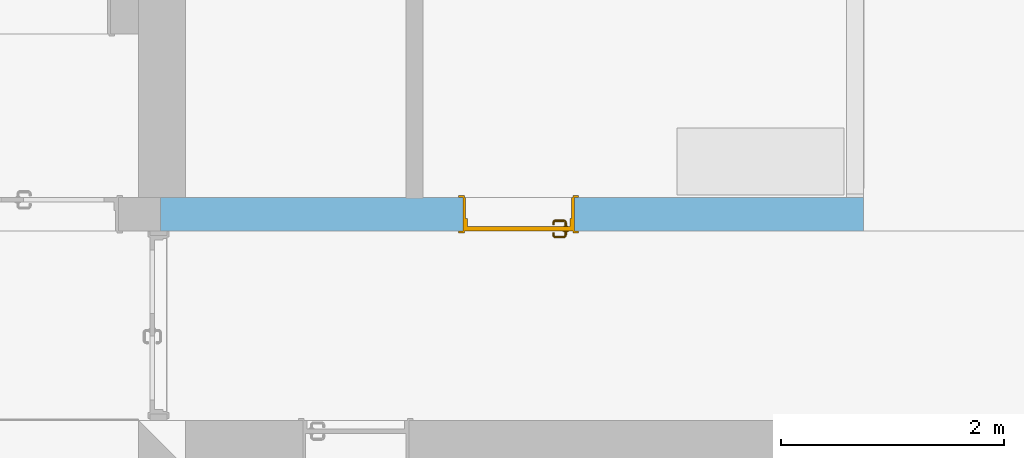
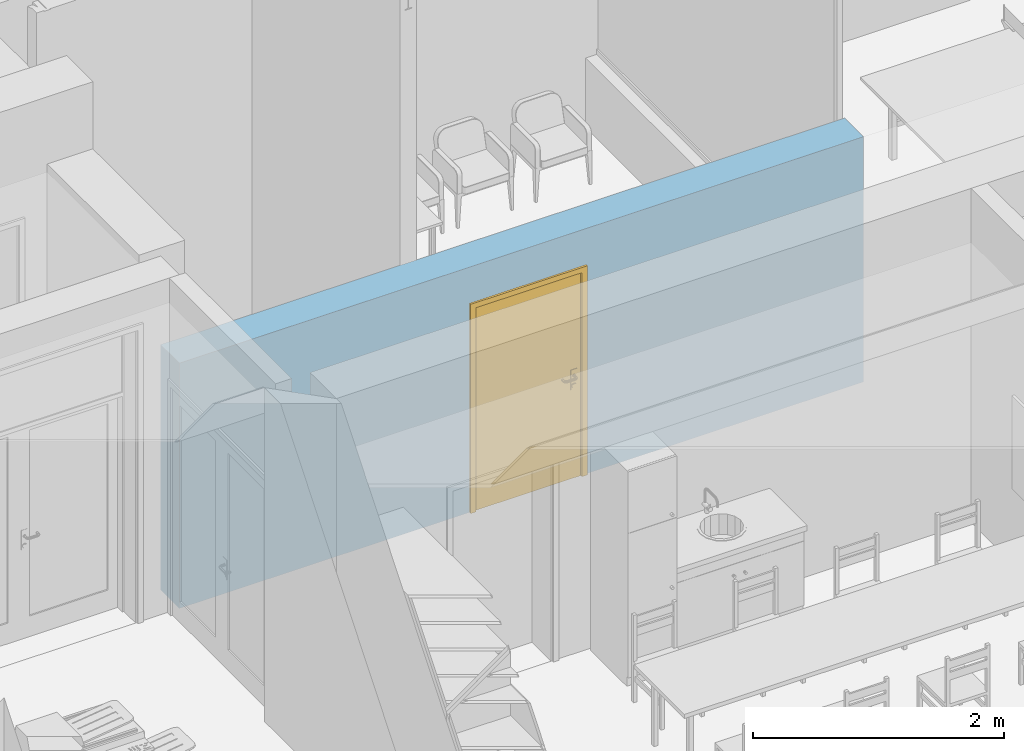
# One storey, part 61 of 194: 1 door, 1 opening, plus 1 element that does not belong to this part.
"""IFC2X3 building model written with IfcOpenShell, lengths in millimetres."""

from ifc_helpers import new_model, entity, si_unit, converted_unit, derived_unit, money_unit, direction, frame, origin_with_axes, origin_2d_with_axis, place, context, subcontext, project, spatial, polyline, rectangle, outline, extrude, open_shell, faceted_brep, surface_model, material, layer, layer_set, layer_usage, type_object, element, fill, save


model = new_model("IFC2X3")

# Units and contexts
model_context = context("Model", 3, precision=1e-05, world=origin_with_axes(), true_north=direction((0.0, 1.0)))
body_context = subcontext(model_context, "Body", "Model", "MODEL_VIEW")
ifc_project = project(units=[si_unit("LENGTHUNIT", "METRE", prefix="MILLI"), si_unit("AREAUNIT", "SQUARE_METRE"), si_unit("VOLUMEUNIT", "CUBIC_METRE"), converted_unit("PLANEANGLEUNIT", "DEGREE", entity("IfcPlaneAngleMeasure", 0.0174532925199), si_unit("PLANEANGLEUNIT", "RADIAN"), dimensions=[0, 0, 0, 0, 0, 0, 0]), si_unit("SOLIDANGLEUNIT", "STERADIAN"), money_unit("EUR"), converted_unit("TIMEUNIT", "Year", entity("IfcTimeMeasure", 31556926.0), si_unit("TIMEUNIT", "SECOND"), dimensions=[0, 0, 1, 0, 0, 0, 0]), si_unit("MASSUNIT", "GRAM", prefix="KILO"), si_unit("THERMODYNAMICTEMPERATUREUNIT", "DEGREE_CELSIUS"), si_unit("LUMINOUSINTENSITYUNIT", "LUMEN"), si_unit("ENERGYUNIT", "JOULE", prefix="MEGA"), derived_unit("THERMALCONDUCTANCEUNIT", [(si_unit("POWERUNIT", "WATT"), 1), (si_unit("LENGTHUNIT", "METRE"), -1), (si_unit("THERMODYNAMICTEMPERATUREUNIT", "KELVIN"), -1)]), derived_unit("SPECIFICHEATCAPACITYUNIT", [(si_unit("ENERGYUNIT", "JOULE"), 1), (si_unit("MASSUNIT", "GRAM", prefix="KILO"), -1), (si_unit("THERMODYNAMICTEMPERATUREUNIT", "KELVIN"), -1)]), derived_unit("MASSDENSITYUNIT", [(si_unit("MASSUNIT", "GRAM", prefix="KILO"), 1), (si_unit("VOLUMEUNIT", "CUBIC_METRE"), -1)])], contexts=[model_context])

# Site, building, storey
site_placement = place(None, origin_with_axes())
site = spatial("IfcSite", under=ifc_project, at=site_placement, Name="Site", CompositionType="ELEMENT")
building_placement = place(site_placement, origin_with_axes())
building = spatial("IfcBuilding", under=site, at=building_placement, Name="Building", CompositionType="ELEMENT")
storey_placement = place(building_placement, frame((0.0, 0.0, 3000.0), z_axis=(0.0, 0.0, 1.0), x_axis=(1.0, 0.0, 0.0)))
storey = spatial("IfcBuildingStorey", under=building, at=storey_placement, Name="2 KORRUS", CompositionType="ELEMENT", Elevation=3000.0)

# Wall, opening, door
ifc_material = material(Name="Kivi -Ol.Olev Konstruktsioon")
ifc_layer = layer(ifc_material, 300.0, ventilated="UNKNOWN")
ifc_layer_set = layer_set([ifc_layer], Name="ol.olev ss 300")
ifc_layer_usage = layer_usage(ifc_layer_set, "AXIS2", "NEGATIVE", 300.0)
wall_type = type_object("IfcWallType", Name="SW - 022", PredefinedType="NOTDEFINED")
wall_placement = place(storey_placement, frame((63935.1951905, 42700.4940854, 0.0), z_axis=(0.0, 0.0, 1.0), x_axis=(1.0, 0.0, 0.0)))
wall = element("IfcWallStandardCase", 1, at=wall_placement, inside=storey, type_object=wall_type, material=ifc_layer_usage, Name="ol.olev ss 300", context=body_context, shape_type="SweptSolid", body=[
    extrude(outline(polyline([(0.0, 0.0), (6299.53291605, 0.0), (6299.53291605, 300.0), (0.0, 300.0), (0.0, 0.0)])), origin_with_axes(), (0.0, 0.0, 1.0), 2387.45029227),
])
opening_placement = place(wall_placement, frame((3209.10835658, 0.0, 0.0), z_axis=(0.0, 0.0, 1.0), x_axis=(1.0, 0.0, 0.0)))
opening = element("IfcOpeningElement", 2, at=opening_placement, cuts=wall, Name="Siseuks * Door 22", context=body_context, shape_type="SweptSolid", body=[
    extrude(rectangle(XDim=1000.0, YDim=2000.0, at=origin_2d_with_axis()), frame((0.0, 300.0, 1000.0), z_axis=(0.0, -1.0, 0.0), x_axis=(-1.0, 0.0, 0.0)), (0.0, 0.0, 1.0), 900.0),
    extrude(rectangle(XDim=1074.0, YDim=2037.0, at=origin_2d_with_axis()), frame((0.0, 300.0, 1018.5), z_axis=(0.0, -1.0, 0.0), x_axis=(-1.0, 0.0, 0.0)), (0.0, 0.0, -1.0), 300.0),
    extrude(rectangle(XDim=1074.0, YDim=2037.0, at=origin_2d_with_axis()), frame((0.0, 0.0, 1018.5), z_axis=(0.0, 1.0, 0.0), x_axis=(-1.0, 0.0, 0.0)), (0.0, 0.0, -1.0), 300.0),
])
door_style = type_object("IfcDoorStyle", Name="SU-B229   1\xa0000×2\xa0000", ConstructionType="NOTDEFINED", OperationType="SINGLE_SWING_RIGHT", ParameterTakesPrecedence=False, Sizeable=False)
door_placement = place(opening_placement, frame((500.0, 0.0, 0.0), z_axis=(0.0, 0.0, 1.0), x_axis=(-1.0, 0.0, 0.0)))
door = element("IfcDoor", 3, at=door_placement, inside=storey, type_object=door_style, Name="Siseuks * Door 22", OverallHeight=2000.0, OverallWidth=1000.0, context=body_context, shape_type="SurfaceModel", body=[
    faceted_brep([(0.0, -115.0, 0.0), (25.0, -115.0, 0.0), (25.0, -300.0, 0.0), (0.0, -300.0, 0.0), (0.0, -115.0, 2000.0), (25.0, -115.0, 1975.0), (25.0, -300.0, 1975.0), (0.0, -300.0, 2000.0)], [[[0, 1, 2, 3]], [[0, 4, 5, 1]], [[1, 5, 6, 2]], [[3, 2, 6, 7]], [[4, 0, 3, 7]], [[5, 4, 7, 6]]]),
    faceted_brep([(1000.0, -115.0, 2000.0), (975.0, -115.0, 1975.0), (975.0, -300.0, 1975.0), (1000.0, -300.0, 2000.0), (1000.0, -115.0, 0.0), (975.0, -115.0, 0.0), (975.0, -300.0, 0.0), (1000.0, -300.0, 0.0)], [[[0, 1, 2, 3]], [[0, 4, 5, 1]], [[1, 5, 6, 2]], [[3, 2, 6, 7]], [[4, 0, 3, 7]], [[5, 4, 7, 6]]]),
    faceted_brep([(25.0, -115.0, 1975.0), (975.0, -115.0, 1975.0), (975.0, -300.0, 1975.0), (25.0, -300.0, 1975.0), (0.0, -115.0, 2000.0), (1000.0, -115.0, 2000.0), (1000.0, -300.0, 2000.0), (0.0, -300.0, 2000.0)], [[[0, 1, 2, 3]], [[0, 4, 5, 1]], [[1, 5, 6, 2]], [[3, 2, 6, 7]], [[4, 0, 3, 7]], [[5, 4, 7, 6]]]),
    faceted_brep([(-37.0, -319.0, 0.0), (-37.0, -300.0, 0.0), (13.0, -300.0, 0.0), (13.0, -319.0, 0.0), (-37.0, -319.0, 2037.0), (-37.0, -300.0, 2037.0), (13.0, -300.0, 1987.0), (13.0, -319.0, 1987.0)], [[[0, 1, 2, 3]], [[4, 5, 1, 0]], [[1, 5, 6, 2]], [[3, 2, 6, 7]], [[0, 3, 7, 4]], [[7, 6, 5, 4]]]),
    faceted_brep([(1037.0, -319.0, 2037.0), (1037.0, -300.0, 2037.0), (987.0, -300.0, 1987.0), (987.0, -319.0, 1987.0), (1037.0, -319.0, 0.0), (1037.0, -300.0, 0.0), (987.0, -300.0, 0.0), (987.0, -319.0, 0.0)], [[[0, 1, 2, 3]], [[4, 5, 1, 0]], [[1, 5, 6, 2]], [[3, 2, 6, 7]], [[0, 3, 7, 4]], [[7, 6, 5, 4]]]),
    faceted_brep([(-37.0, -319.0, 2037.0), (-37.0, -300.0, 2037.0), (13.0, -300.0, 1987.0), (13.0, -319.0, 1987.0), (1037.0, -319.0, 2037.0), (1037.0, -300.0, 2037.0), (987.0, -300.0, 1987.0), (987.0, -319.0, 1987.0)], [[[0, 1, 2, 3]], [[4, 5, 1, 0]], [[1, 5, 6, 2]], [[3, 2, 6, 7]], [[0, 3, 7, 4]], [[7, 6, 5, 4]]]),
    faceted_brep([(-37.0, 19.0000000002, 0.0), (13.0, 19.0000000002, 0.0), (13.0, 0.0, 0.0), (-37.0, 0.0, 0.0), (-37.0, 19.0000000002, 2037.0), (13.0, 19.0000000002, 1987.0), (13.0, 0.0, 1987.0), (-37.0, 0.0, 2037.0)], [[[0, 1, 2, 3]], [[0, 4, 5, 1]], [[1, 5, 6, 2]], [[3, 2, 6, 7]], [[4, 0, 3, 7]], [[5, 4, 7, 6]]]),
    faceted_brep([(1037.0, 19.0000000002, 2037.0), (987.0, 19.0000000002, 1987.0), (987.0, 0.0, 1987.0), (1037.0, 0.0, 2037.0), (1037.0, 19.0000000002, 0.0), (987.0, 19.0000000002, 0.0), (987.0, 0.0, 0.0), (1037.0, 0.0, 0.0)], [[[0, 1, 2, 3]], [[0, 4, 5, 1]], [[1, 5, 6, 2]], [[3, 2, 6, 7]], [[4, 0, 3, 7]], [[5, 4, 7, 6]]]),
    faceted_brep([(-37.0, 19.0000000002, 2037.0), (13.0, 19.0000000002, 1987.0), (13.0, 0.0, 1987.0), (-37.0, 0.0, 2037.0), (1037.0, 19.0000000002, 2037.0), (987.0, 19.0000000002, 1987.0), (987.0, 0.0, 1987.0), (1037.0, 0.0, 2037.0)], [[[0, 1, 2, 3]], [[0, 4, 5, 1]], [[1, 5, 6, 2]], [[3, 2, 6, 7]], [[4, 0, 3, 7]], [[5, 4, 7, 6]]]),
    faceted_brep([(40.0, -40.0, 0.0), (40.0, -40.0, 1960.0), (40.0, -115.0, 1960.0), (40.0, -115.0, 0.0), (28.0, -40.0, 1960.0), (28.0, -40.0, 0.0), (28.0, 0.0, 1960.0), (0.0, 0.0, 1960.0), (0.0, -115.0, 1960.0), (0.0, -115.0, 0.0), (0.0, 0.0, 0.0), (28.0, 0.0, 0.0)], [[[0, 1, 2, 3]], [[4, 1, 0, 5]], [[4, 6, 7, 8, 2, 1]], [[3, 2, 8, 9]], [[5, 0, 3, 9, 10, 11]], [[6, 4, 5, 11]], [[6, 11, 10, 7]], [[10, 9, 8, 7]]]),
    faceted_brep([(972.0, -40.0, 1960.0), (960.0, -40.0, 1960.0), (960.0, -115.0, 1960.0), (1000.0, -115.0, 1960.0), (1000.0, 0.0, 1960.0), (972.0, 0.0, 1960.0), (972.0, -40.0, 0.0), (960.0, -40.0, 0.0), (960.0, -115.0, 0.0), (1000.0, -115.0, 0.0), (1000.0, 0.0, 0.0), (972.0, 0.0, 0.0)], [[[0, 1, 2, 3, 4, 5]], [[1, 0, 6, 7]], [[1, 7, 8, 2]], [[3, 2, 8, 9]], [[4, 3, 9, 10]], [[11, 5, 4, 10]], [[0, 5, 11, 6]], [[6, 11, 10, 9, 8, 7]]]),
    faceted_brep([(28.0, 0.0, 1972.0), (28.0, 0.0, 1960.0), (0.0, 0.0, 1960.0), (0.0, 0.0, 2000.0), (1000.0, 0.0, 2000.0), (1000.0, 0.0, 1960.0), (972.0, 0.0, 1960.0), (972.0, 0.0, 1972.0), (28.0, -40.0, 1972.0), (28.0, -40.0, 1960.0), (40.0, -40.0, 1960.0), (40.0, -115.0, 1960.0), (0.0, -115.0, 1960.0), (0.0, -115.0, 2000.0), (1000.0, -115.0, 2000.0), (1000.0, -115.0, 1960.0), (972.0, -40.0, 1960.0), (960.0, -115.0, 1960.0), (960.0, -40.0, 1960.0), (972.0, -40.0, 1972.0)], [[[0, 1, 2, 3, 4, 5, 6, 7]], [[1, 0, 8, 9]], [[9, 10, 11, 12, 2, 1]], [[2, 12, 13, 3]], [[3, 13, 14, 4]], [[4, 14, 15, 5]], [[16, 6, 5, 15, 17, 18]], [[7, 6, 16, 19]], [[0, 7, 19, 8]], [[16, 18, 10, 9, 8, 19]], [[10, 18, 17, 11]], [[17, 15, 14, 13, 12, 11]]]),
    faceted_brep([(49.5, -40.0, 1060.0), (49.5, -42.9999999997, 1060.0), (106.5, -42.9999999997, 1060.0), (106.5, -40.0, 1060.0), (49.5, -40.0, 870.0), (49.5, -42.9999999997, 870.0), (106.5, -42.9999999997, 870.0), (106.5, -40.0, 870.0)], [[[0, 1, 2, 3]], [[4, 5, 1, 0]], [[1, 5, 6, 2]], [[3, 2, 6, 7]], [[0, 3, 7, 4]], [[7, 6, 5, 4]]]),
    surface_model("IfcShellBasedSurfaceModel", [(88.0, -52.9999999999, 1000.0), (88.0, -72.0150859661, 1000.0), (85.0710678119, -72.3035606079, 992.928932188), (85.0710678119, -52.9999999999, 992.928932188), (85.0710678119, -52.9999999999, 1007.07106781), (85.0710678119, -72.3035606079, 1007.07106781), (88.9422033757, -76.7518622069, 1000.0), (86.1832095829, -77.8946748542, 992.928932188), (78.0, -73.0000000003, 990.0), (78.0, -52.9999999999, 990.0), (78.0, -52.9999999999, 1010.0), (78.0, -73.0000000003, 1010.0), (86.1832095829, -77.8946748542, 1007.07106781), (91.0674625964, -79.9325374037, 1000.0), (88.9558201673, -82.0441798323, 992.928932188), (79.5224093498, -80.6536686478, 990.0), (70.9289321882, -73.6964393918, 992.928932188), (70.9289321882, -52.9999999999, 992.928932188), (70.9289321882, -52.9999999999, 1007.07106781), (70.9289321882, -73.6964393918, 1007.07106781), (79.5224093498, -80.6536686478, 1010.0), (88.9558201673, -82.0441798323, 1007.07106781), (94.248137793, -82.0577966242, 1000.0), (93.1053251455, -84.8167904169, 992.928932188), (83.8578643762, -87.1421356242, 990.0), (72.8616091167, -83.4126624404, 992.928932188), (68.0, -73.9849140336, 1000.0), (68.0, -52.9999999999, 1000.0), (72.8616091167, -83.4126624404, 1007.07106781), (83.8578643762, -87.1421356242, 1010.0), (93.1053251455, -84.8167904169, 1007.07106781), (98.9849140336, -82.9999999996, 1000.0), (98.696439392, -85.9289321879, 992.928932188), (90.3463313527, -91.4775906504, 990.0), (78.7599085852, -92.2400914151, 992.928932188), (70.1026153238, -84.5554750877, 1000.0), (78.7599085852, -92.2400914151, 1007.07106781), (90.3463313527, -91.4775906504, 1010.0), (98.696439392, -85.9289321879, 1007.07106781), (167.015085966, -82.9999999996, 1000.0), (167.303560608, -85.9289321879, 992.928932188), (98.0, -92.9999999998, 990.0), (87.5873375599, -98.1383908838, 992.928932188), (76.6482661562, -94.3517338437, 1000.0), (87.5873375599, -98.1383908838, 1007.07106781), (98.0, -92.9999999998, 1010.0), (167.303560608, -85.9289321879, 1007.07106781), (171.751862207, -82.0577966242, 1000.0), (172.894674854, -84.8167904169, 992.928932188), (168.0, -92.9999999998, 990.0), (97.303560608, -100.071067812, 992.928932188), (86.4445249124, -100.897384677, 1000.0), (97.303560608, -100.071067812, 1007.07106781), (168.0, -92.9999999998, 1010.0), (172.894674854, -84.8167904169, 1007.07106781), (174.932537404, -79.9325374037, 1000.0), (177.044179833, -82.0441798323, 992.928932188), (175.653668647, -91.4775906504, 990.0), (168.696439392, -100.071067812, 992.928932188), (97.0150859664, -103.0, 1000.0), (168.696439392, -100.071067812, 1007.07106781), (175.653668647, -91.4775906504, 1010.0), (177.044179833, -82.0441798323, 1007.07106781), (177.057796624, -76.7518622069, 1000.0), (179.816790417, -77.8946748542, 992.928932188), (182.142135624, -87.1421356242, 990.0), (178.41266244, -98.1383908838, 992.928932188), (168.984914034, -103.0, 1000.0), (178.41266244, -98.1383908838, 1007.07106781), (182.142135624, -87.1421356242, 1010.0), (179.816790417, -77.8946748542, 1007.07106781), (178.0, -72.0150859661, 1000.0), (180.928932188, -72.3035606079, 992.928932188), (186.47759065, -80.6536686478, 990.0), (187.240091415, -92.2400914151, 992.928932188), (179.555475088, -100.897384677, 1000.0), (187.240091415, -92.2400914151, 1007.07106781), (186.47759065, -80.6536686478, 1010.0), (180.928932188, -72.3035606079, 1007.07106781), (178.0, -52.9999999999, 1000.0), (180.928932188, -52.9999999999, 992.928932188), (188.0, -73.0000000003, 990.0), (193.138390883, -83.4126624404, 992.928932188), (189.351733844, -94.3517338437, 1000.0), (193.138390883, -83.4126624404, 1007.07106781), (188.0, -73.0000000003, 1010.0), (180.928932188, -52.9999999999, 1007.07106781), (188.0, -52.9999999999, 1010.0), (195.071067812, -52.9999999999, 1007.07106781), (198.0, -52.9999999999, 1000.0), (195.071067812, -52.9999999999, 992.928932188), (188.0, -52.9999999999, 990.0), (195.071067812, -73.6964393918, 992.928932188), (195.897384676, -84.5554750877, 1000.0), (195.071067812, -73.6964393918, 1007.07106781), (198.0, -73.9849140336, 1000.0)], [open_shell([[[0, 1, 2, 3]], [[4, 5, 1, 0]], [[1, 6, 7, 2]], [[3, 2, 8, 9]], [[10, 11, 5, 4]], [[5, 12, 6, 1]], [[6, 13, 14, 7]], [[2, 7, 15, 8]], [[9, 8, 16, 17]], [[18, 19, 11, 10]], [[11, 20, 12, 5]], [[12, 21, 13, 6]], [[13, 22, 23, 14]], [[7, 14, 24, 15]], [[8, 15, 25, 16]], [[17, 16, 26, 27]], [[27, 26, 19, 18]], [[19, 28, 20, 11]], [[20, 29, 21, 12]], [[21, 30, 22, 13]], [[22, 31, 32, 23]], [[14, 23, 33, 24]], [[15, 24, 34, 25]], [[16, 25, 35, 26]], [[26, 35, 28, 19]], [[28, 36, 29, 20]], [[29, 37, 30, 21]], [[30, 38, 31, 22]], [[31, 39, 40, 32]], [[23, 32, 41, 33]], [[24, 33, 42, 34]], [[25, 34, 43, 35]], [[35, 43, 36, 28]], [[36, 44, 37, 29]], [[37, 45, 38, 30]], [[38, 46, 39, 31]], [[39, 47, 48, 40]], [[32, 40, 49, 41]], [[33, 41, 50, 42]], [[34, 42, 51, 43]], [[43, 51, 44, 36]], [[44, 52, 45, 37]], [[45, 53, 46, 38]], [[46, 54, 47, 39]], [[47, 55, 56, 48]], [[40, 48, 57, 49]], [[41, 49, 58, 50]], [[42, 50, 59, 51]], [[51, 59, 52, 44]], [[52, 60, 53, 45]], [[53, 61, 54, 46]], [[54, 62, 55, 47]], [[55, 63, 64, 56]], [[48, 56, 65, 57]], [[49, 57, 66, 58]], [[50, 58, 67, 59]], [[59, 67, 60, 52]], [[60, 68, 61, 53]], [[61, 69, 62, 54]], [[62, 70, 63, 55]], [[63, 71, 72, 64]], [[56, 64, 73, 65]], [[57, 65, 74, 66]], [[58, 66, 75, 67]], [[67, 75, 68, 60]], [[68, 76, 69, 61]], [[69, 77, 70, 62]], [[70, 78, 71, 63]], [[71, 79, 80, 72]], [[64, 72, 81, 73]], [[65, 73, 82, 74]], [[66, 74, 83, 75]], [[75, 83, 76, 68]], [[76, 84, 77, 69]], [[77, 85, 78, 70]], [[78, 86, 79, 71]], [[79, 86, 87, 88, 89, 90, 91, 80]], [[72, 80, 91, 81]], [[73, 81, 92, 82]], [[74, 82, 93, 83]], [[83, 93, 84, 76]], [[84, 94, 85, 77]], [[85, 87, 86, 78]], [[94, 88, 87, 85]], [[95, 89, 88, 94]], [[92, 90, 89, 95]], [[81, 91, 90, 92]], [[82, 92, 95, 93]], [[93, 95, 94, 84]]])]),
    faceted_brep([(88.3923048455, -52.9999999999, 994.0), (89.2583302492, -42.9999999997, 993.5), (91.0, -42.9999999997, 1000.0), (90.0, -52.9999999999, 1000.0), (83.9999999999, -52.9999999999, 989.607695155), (84.5, -42.9999999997, 988.741669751), (78.0, -42.9999999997, 987.0), (71.5, -42.9999999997, 988.741669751), (66.7416697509, -42.9999999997, 993.5), (65.0000000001, -42.9999999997, 1000.0), (66.7416697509, -42.9999999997, 1006.5), (71.5, -42.9999999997, 1011.25833025), (78.0, -42.9999999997, 1013.0), (84.5, -42.9999999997, 1011.25833025), (89.2583302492, -42.9999999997, 1006.5), (88.3923048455, -52.9999999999, 1006.0), (83.9999999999, -52.9999999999, 1010.39230485), (78.0, -52.9999999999, 1012.0), (72.0, -52.9999999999, 1010.39230485), (67.6076951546, -52.9999999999, 1006.0), (66.0, -52.9999999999, 1000.0), (67.6076951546, -52.9999999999, 994.0), (72.0, -52.9999999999, 989.607695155), (78.0, -52.9999999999, 988.0)], [[[0, 1, 2, 3]], [[4, 5, 1, 0]], [[2, 1, 5, 6, 7, 8, 9, 10, 11, 12, 13, 14]], [[3, 2, 14, 15]], [[3, 15, 16, 17, 18, 19, 20, 21, 22, 23, 4, 0]], [[23, 6, 5, 4]], [[22, 7, 6, 23]], [[21, 8, 7, 22]], [[20, 9, 8, 21]], [[19, 10, 9, 20]], [[18, 11, 10, 19]], [[17, 12, 11, 18]], [[16, 13, 12, 17]], [[15, 14, 13, 16]]]),
    faceted_brep([(95.3205080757, -46.9999999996, 895.0), (97.0525588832, -42.9999999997, 894.0), (100.0, -42.9999999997, 905.0), (98.0, -46.9999999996, 905.0), (88.0, -46.9999999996, 887.679491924), (89.0000000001, -42.9999999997, 885.947441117), (78.0, -42.9999999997, 883.0), (67.0, -42.9999999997, 885.947441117), (58.9474411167, -42.9999999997, 894.0), (56.0, -42.9999999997, 905.0), (58.9474411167, -42.9999999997, 916.0), (67.0, -42.9999999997, 924.052558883), (78.0, -42.9999999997, 927.0), (89.0000000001, -42.9999999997, 924.052558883), (97.0525588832, -42.9999999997, 916.0), (95.3205080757, -46.9999999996, 915.0), (88.0, -46.9999999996, 922.320508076), (78.0, -46.9999999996, 925.0), (68.0, -46.9999999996, 922.320508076), (60.6794919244, -46.9999999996, 915.0), (58.0, -46.9999999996, 905.0), (60.6794919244, -46.9999999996, 895.0), (68.0, -46.9999999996, 887.679491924), (78.0, -46.9999999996, 885.0)], [[[0, 1, 2, 3]], [[4, 5, 1, 0]], [[2, 1, 5, 6, 7, 8, 9, 10, 11, 12, 13, 14]], [[3, 2, 14, 15]], [[3, 15, 16, 17, 18, 19, 20, 21, 22, 23, 4, 0]], [[23, 6, 5, 4]], [[22, 7, 6, 23]], [[21, 8, 7, 22]], [[20, 9, 8, 21]], [[19, 10, 9, 20]], [[18, 11, 10, 19]], [[17, 12, 11, 18]], [[16, 13, 12, 17]], [[15, 14, 13, 16]]]),
    faceted_brep([(82.9497474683, -49.0, 909.050252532), (83.6568542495, -46.9999999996, 908.343145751), (86.0, -46.9999999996, 914.0), (85.0, -49.0, 914.0), (78.0, -49.0, 907.0), (78.0, -46.9999999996, 906.0), (72.3431457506, -46.9999999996, 908.343145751), (70.0000000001, -46.9999999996, 914.0), (72.3431457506, -46.9999999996, 919.656854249), (78.0, -46.9999999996, 922.0), (83.6568542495, -46.9999999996, 919.656854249), (82.9497474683, -49.0, 918.949747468), (78.0, -49.0, 921.0), (73.0502525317, -49.0, 918.949747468), (71.0, -49.0, 914.0), (73.0502525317, -49.0, 909.050252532)], [[[0, 1, 2, 3]], [[4, 5, 1, 0]], [[2, 1, 5, 6, 7, 8, 9, 10]], [[3, 2, 10, 11]], [[3, 11, 12, 13, 14, 15, 4, 0]], [[15, 6, 5, 4]], [[14, 7, 6, 15]], [[13, 8, 7, 14]], [[12, 9, 8, 13]], [[11, 10, 9, 12]]]),
    faceted_brep([(49.5, 0.0, 1060.0), (106.5, 0.0, 1060.0), (106.5, 2.9999999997, 1060.0), (49.5, 2.9999999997, 1060.0), (49.5, 0.0, 870.0), (106.5, 0.0, 870.0), (106.5, 2.9999999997, 870.0), (49.5, 2.9999999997, 870.0)], [[[0, 1, 2, 3]], [[0, 4, 5, 1]], [[1, 5, 6, 2]], [[3, 2, 6, 7]], [[4, 0, 3, 7]], [[5, 4, 7, 6]]]),
    surface_model("IfcShellBasedSurfaceModel", [(88.0, 12.9999999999, 1000.0), (85.0710678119, 12.9999999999, 992.928932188), (85.0710678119, 32.3035606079, 992.928932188), (88.0, 32.0150859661, 1000.0), (78.0, 12.9999999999, 990.0), (78.0, 33.0000000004, 990.0), (86.1832095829, 37.8946748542, 992.928932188), (88.9422033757, 36.751862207, 1000.0), (85.0710678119, 12.9999999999, 1007.07106781), (85.0710678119, 32.3035606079, 1007.07106781), (70.9289321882, 12.9999999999, 992.928932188), (70.9289321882, 33.6964393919, 992.928932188), (79.5224093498, 40.6536686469, 990.0), (88.9558201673, 42.0441798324, 992.928932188), (91.0674625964, 39.9325374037, 1000.0), (86.1832095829, 37.8946748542, 1007.07106781), (78.0, 12.9999999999, 1010.0), (78.0, 33.0000000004, 1010.0), (68.0, 12.9999999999, 1000.0), (68.0, 33.9849140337, 1000.0), (72.8616091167, 43.4126624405, 992.928932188), (83.8578643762, 47.1421356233, 990.0), (93.1053251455, 44.8167904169, 992.928932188), (94.248137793, 42.0577966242, 1000.0), (88.9558201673, 42.0441798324, 1007.07106781), (79.5224093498, 40.6536686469, 1010.0), (70.9289321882, 12.9999999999, 1007.07106781), (70.9289321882, 33.6964393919, 1007.07106781), (70.1026153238, 44.5554750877, 1000.0), (78.7599085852, 52.2400914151, 992.928932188), (90.3463313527, 51.4775906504, 990.0), (98.696439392, 45.928932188, 992.928932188), (98.9849140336, 42.9999999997, 1000.0), (93.1053251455, 44.8167904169, 1007.07106781), (83.8578643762, 47.1421356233, 1010.0), (72.8616091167, 43.4126624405, 1007.07106781), (76.6482661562, 54.3517338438, 1000.0), (87.5873375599, 58.138390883, 992.928932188), (98.0, 52.9999999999, 990.0), (167.303560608, 45.928932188, 992.928932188), (167.015085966, 42.9999999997, 1000.0), (98.696439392, 45.928932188, 1007.07106781), (90.3463313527, 51.4775906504, 1010.0), (78.7599085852, 52.2400914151, 1007.07106781), (86.4445249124, 60.8973846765, 1000.0), (97.303560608, 60.0710678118, 992.928932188), (168.0, 52.9999999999, 990.0), (172.894674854, 44.8167904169, 992.928932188), (171.751862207, 42.0577966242, 1000.0), (167.303560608, 45.928932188, 1007.07106781), (98.0, 52.9999999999, 1010.0), (87.5873375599, 58.138390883, 1007.07106781), (97.0150859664, 63.0000000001, 1000.0), (168.696439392, 60.0710678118, 992.928932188), (175.653668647, 51.4775906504, 990.0), (177.044179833, 42.0441798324, 992.928932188), (174.932537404, 39.9325374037, 1000.0), (172.894674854, 44.8167904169, 1007.07106781), (168.0, 52.9999999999, 1010.0), (97.303560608, 60.0710678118, 1007.07106781), (168.984914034, 63.0000000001, 1000.0), (178.41266244, 58.138390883, 992.928932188), (182.142135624, 47.1421356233, 990.0), (179.816790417, 37.8946748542, 992.928932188), (177.057796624, 36.751862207, 1000.0), (177.044179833, 42.0441798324, 1007.07106781), (175.653668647, 51.4775906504, 1010.0), (168.696439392, 60.0710678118, 1007.07106781), (179.555475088, 60.8973846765, 1000.0), (187.240091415, 52.2400914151, 992.928932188), (186.47759065, 40.6536686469, 990.0), (180.928932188, 32.3035606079, 992.928932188), (178.0, 32.0150859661, 1000.0), (179.816790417, 37.8946748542, 1007.07106781), (182.142135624, 47.1421356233, 1010.0), (178.41266244, 58.138390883, 1007.07106781), (189.351733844, 54.3517338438, 1000.0), (193.138390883, 43.4126624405, 992.928932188), (188.0, 33.0000000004, 990.0), (180.928932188, 12.9999999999, 992.928932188), (178.0, 12.9999999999, 1000.0), (180.928932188, 32.3035606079, 1007.07106781), (186.47759065, 40.6536686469, 1010.0), (187.240091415, 52.2400914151, 1007.07106781), (195.897384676, 44.5554750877, 1000.0), (195.071067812, 33.6964393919, 992.928932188), (188.0, 12.9999999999, 990.0), (195.071067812, 12.9999999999, 992.928932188), (198.0, 12.9999999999, 1000.0), (195.071067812, 12.9999999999, 1007.07106781), (188.0, 12.9999999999, 1010.0), (180.928932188, 12.9999999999, 1007.07106781), (188.0, 33.0000000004, 1010.0), (193.138390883, 43.4126624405, 1007.07106781), (198.0, 33.9849140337, 1000.0), (195.071067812, 33.6964393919, 1007.07106781)], [open_shell([[[0, 1, 2, 3]], [[1, 4, 5, 2]], [[3, 2, 6, 7]], [[8, 0, 3, 9]], [[4, 10, 11, 5]], [[2, 5, 12, 6]], [[7, 6, 13, 14]], [[9, 3, 7, 15]], [[16, 8, 9, 17]], [[10, 18, 19, 11]], [[5, 11, 20, 12]], [[6, 12, 21, 13]], [[14, 13, 22, 23]], [[15, 7, 14, 24]], [[17, 9, 15, 25]], [[26, 16, 17, 27]], [[18, 26, 27, 19]], [[11, 19, 28, 20]], [[12, 20, 29, 21]], [[13, 21, 30, 22]], [[23, 22, 31, 32]], [[24, 14, 23, 33]], [[25, 15, 24, 34]], [[27, 17, 25, 35]], [[19, 27, 35, 28]], [[20, 28, 36, 29]], [[21, 29, 37, 30]], [[22, 30, 38, 31]], [[32, 31, 39, 40]], [[33, 23, 32, 41]], [[34, 24, 33, 42]], [[35, 25, 34, 43]], [[28, 35, 43, 36]], [[29, 36, 44, 37]], [[30, 37, 45, 38]], [[31, 38, 46, 39]], [[40, 39, 47, 48]], [[41, 32, 40, 49]], [[42, 33, 41, 50]], [[43, 34, 42, 51]], [[36, 43, 51, 44]], [[37, 44, 52, 45]], [[38, 45, 53, 46]], [[39, 46, 54, 47]], [[48, 47, 55, 56]], [[49, 40, 48, 57]], [[50, 41, 49, 58]], [[51, 42, 50, 59]], [[44, 51, 59, 52]], [[45, 52, 60, 53]], [[46, 53, 61, 54]], [[47, 54, 62, 55]], [[56, 55, 63, 64]], [[57, 48, 56, 65]], [[58, 49, 57, 66]], [[59, 50, 58, 67]], [[52, 59, 67, 60]], [[53, 60, 68, 61]], [[54, 61, 69, 62]], [[55, 62, 70, 63]], [[64, 63, 71, 72]], [[65, 56, 64, 73]], [[66, 57, 65, 74]], [[67, 58, 66, 75]], [[60, 67, 75, 68]], [[61, 68, 76, 69]], [[62, 69, 77, 70]], [[63, 70, 78, 71]], [[72, 71, 79, 80]], [[73, 64, 72, 81]], [[74, 65, 73, 82]], [[75, 66, 74, 83]], [[68, 75, 83, 76]], [[69, 76, 84, 77]], [[70, 77, 85, 78]], [[71, 78, 86, 79]], [[80, 79, 86, 87, 88, 89, 90, 91]], [[81, 72, 80, 91]], [[82, 73, 81, 92]], [[83, 74, 82, 93]], [[76, 83, 93, 84]], [[77, 84, 94, 85]], [[78, 85, 87, 86]], [[85, 94, 88, 87]], [[94, 95, 89, 88]], [[95, 92, 90, 89]], [[92, 81, 91, 90]], [[93, 82, 92, 95]], [[84, 93, 95, 94]]])]),
    faceted_brep([(88.3923048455, 12.9999999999, 994.0), (90.0, 12.9999999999, 1000.0), (91.0, 2.9999999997, 1000.0), (89.2583302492, 2.9999999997, 993.5), (83.9999999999, 12.9999999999, 989.607695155), (78.0, 12.9999999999, 988.0), (72.0, 12.9999999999, 989.607695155), (67.6076951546, 12.9999999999, 994.0), (66.0, 12.9999999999, 1000.0), (67.6076951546, 12.9999999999, 1006.0), (72.0, 12.9999999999, 1010.39230485), (78.0, 12.9999999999, 1012.0), (83.9999999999, 12.9999999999, 1010.39230485), (88.3923048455, 12.9999999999, 1006.0), (89.2583302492, 2.9999999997, 1006.5), (84.5, 2.9999999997, 1011.25833025), (78.0, 2.9999999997, 1013.0), (71.5, 2.9999999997, 1011.25833025), (66.7416697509, 2.9999999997, 1006.5), (65.0000000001, 2.9999999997, 1000.0), (66.7416697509, 2.9999999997, 993.5), (71.5, 2.9999999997, 988.741669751), (78.0, 2.9999999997, 987.0), (84.5, 2.9999999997, 988.741669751)], [[[0, 1, 2, 3]], [[1, 0, 4, 5, 6, 7, 8, 9, 10, 11, 12, 13]], [[1, 13, 14, 2]], [[2, 14, 15, 16, 17, 18, 19, 20, 21, 22, 23, 3]], [[4, 0, 3, 23]], [[5, 4, 23, 22]], [[6, 5, 22, 21]], [[7, 6, 21, 20]], [[8, 7, 20, 19]], [[9, 8, 19, 18]], [[10, 9, 18, 17]], [[11, 10, 17, 16]], [[12, 11, 16, 15]], [[13, 12, 15, 14]]]),
    faceted_brep([(95.3205080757, 6.99999999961, 895.0), (98.0, 6.99999999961, 905.0), (100.0, 2.9999999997, 905.0), (97.0525588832, 2.9999999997, 894.0), (88.0, 6.99999999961, 887.679491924), (78.0, 6.99999999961, 885.0), (68.0, 6.99999999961, 887.679491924), (60.6794919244, 6.99999999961, 895.0), (58.0, 6.99999999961, 905.0), (60.6794919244, 6.99999999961, 915.0), (68.0, 6.99999999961, 922.320508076), (78.0, 6.99999999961, 925.0), (88.0, 6.99999999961, 922.320508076), (95.3205080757, 6.99999999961, 915.0), (97.0525588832, 2.9999999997, 916.0), (89.0000000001, 2.9999999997, 924.052558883), (78.0, 2.9999999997, 927.0), (67.0, 2.9999999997, 924.052558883), (58.9474411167, 2.9999999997, 916.0), (56.0, 2.9999999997, 905.0), (58.9474411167, 2.9999999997, 894.0), (67.0, 2.9999999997, 885.947441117), (78.0, 2.9999999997, 883.0), (89.0000000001, 2.9999999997, 885.947441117)], [[[0, 1, 2, 3]], [[1, 0, 4, 5, 6, 7, 8, 9, 10, 11, 12, 13]], [[1, 13, 14, 2]], [[2, 14, 15, 16, 17, 18, 19, 20, 21, 22, 23, 3]], [[4, 0, 3, 23]], [[5, 4, 23, 22]], [[6, 5, 22, 21]], [[7, 6, 21, 20]], [[8, 7, 20, 19]], [[9, 8, 19, 18]], [[10, 9, 18, 17]], [[11, 10, 17, 16]], [[12, 11, 16, 15]], [[13, 12, 15, 14]]]),
    faceted_brep([(82.9497474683, 9.00000000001, 909.050252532), (85.0, 9.00000000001, 914.0), (86.0, 6.99999999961, 914.0), (83.6568542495, 6.99999999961, 908.343145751), (78.0, 9.00000000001, 907.0), (73.0502525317, 9.00000000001, 909.050252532), (71.0, 9.00000000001, 914.0), (73.0502525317, 9.00000000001, 918.949747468), (78.0, 9.00000000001, 921.0), (82.9497474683, 9.00000000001, 918.949747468), (83.6568542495, 6.99999999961, 919.656854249), (78.0, 6.99999999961, 922.0), (72.3431457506, 6.99999999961, 919.656854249), (70.0000000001, 6.99999999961, 914.0), (72.3431457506, 6.99999999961, 908.343145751), (78.0, 6.99999999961, 906.0)], [[[0, 1, 2, 3]], [[1, 0, 4, 5, 6, 7, 8, 9]], [[1, 9, 10, 2]], [[2, 10, 11, 12, 13, 14, 15, 3]], [[4, 0, 3, 15]], [[5, 4, 15, 14]], [[6, 5, 14, 13]], [[7, 6, 13, 12]], [[8, 7, 12, 11]], [[9, 8, 11, 10]]]),
    faceted_brep([(972.0, 0.0, 0.0), (972.0, -40.0, 0.0), (28.0, -40.0, 0.0), (28.0, 0.0, 0.0), (972.0, 0.0, 1972.0), (972.0, -40.0, 1972.0), (28.0, -40.0, 1972.0), (28.0, 0.0, 1972.0)], [[[0, 1, 2, 3]], [[4, 5, 1, 0]], [[1, 5, 6, 2]], [[3, 2, 6, 7]], [[0, 3, 7, 4]], [[7, 6, 5, 4]]]),
])
fill(opening, door)

save(model, "model.ifc")
